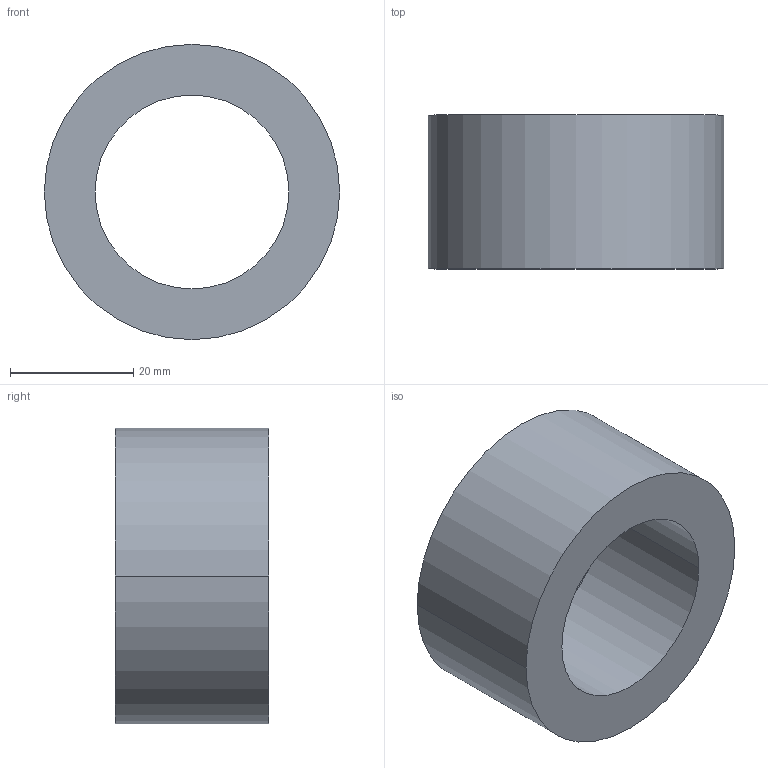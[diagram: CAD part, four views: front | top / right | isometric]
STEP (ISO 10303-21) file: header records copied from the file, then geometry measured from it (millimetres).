
FILE_DESCRIPTION (( 'STEP AP203' ), '1' );
FILE_NAME ('30800.WPP48J31.5.step', '2019-01-23T22:51:59', ( '' ), ( '' ), 'SwSTEP 2.0', 'SolidWorks 2017', '' );
FILE_SCHEMA (( 'CONFIG_CONTROL_DESIGN' ));
Length unit declared in the file: millimetre
Products named in the file (1): 30800.WPP48J31.5
Bounding box: 48 x 25 x 48 mm (x, y, z)
Volume: 25556.9 mm3; surface area: 8181 mm2
Topology: 1 solids, 1 shells, 8 faces, 16 edges, 10 vertices
Faces by surface type: cylinder 4, torus 2, plane 2
Entity records: 297 total; most frequent: DIRECTION 46, CARTESIAN_POINT 35, ORIENTED_EDGE 32, AXIS2_PLACEMENT_3D 21, EDGE_CURVE 16, CIRCLE 12, VERTEX_POINT 10, EDGE_LOOP 10
